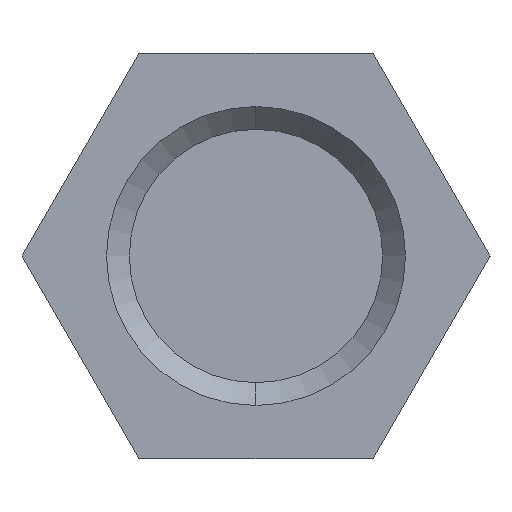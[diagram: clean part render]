
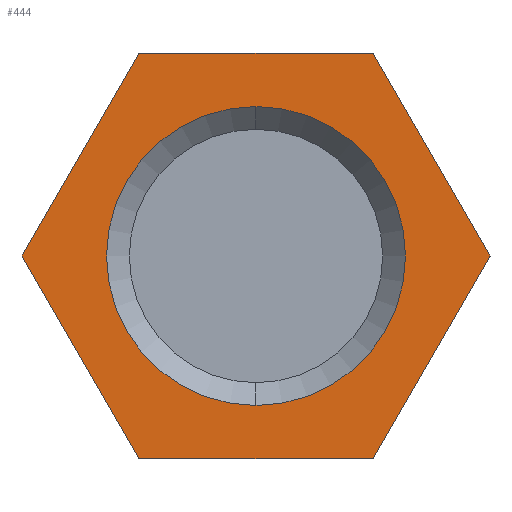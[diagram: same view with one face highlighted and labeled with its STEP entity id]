
A CAD part, left-side view. The second image highlights one B-rep face of the part: STEP entity #444.
In plain terms, the highlighted planar face has unit normal (-1, 0, 0).
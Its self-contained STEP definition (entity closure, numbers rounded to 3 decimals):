
#4=DIRECTION('',(0.,-0.5,-0.866));
#5=VECTOR('',#4,4.619);
#6=CARTESIAN_POINT('',(0.,4.619,0.));
#7=LINE('',#6,#5);
#12=DIRECTION('',(0.,0.5,-0.866));
#13=VECTOR('',#12,4.619);
#14=CARTESIAN_POINT('',(0.,2.309,4.));
#15=LINE('',#14,#13);
#19=DIRECTION('',(0.,1.,0.));
#20=VECTOR('',#19,4.619);
#21=CARTESIAN_POINT('',(0.,-2.309,4.));
#22=LINE('',#21,#20);
#26=DIRECTION('',(0.,0.5,0.866));
#27=VECTOR('',#26,4.619);
#28=CARTESIAN_POINT('',(0.,-4.619,0.));
#29=LINE('',#28,#27);
#33=DIRECTION('',(0.,-0.5,0.866));
#34=VECTOR('',#33,4.619);
#35=CARTESIAN_POINT('',(0.,-2.309,-4.));
#36=LINE('',#35,#34);
#40=DIRECTION('',(0.,-1.,0.));
#41=VECTOR('',#40,4.619);
#42=CARTESIAN_POINT('',(0.,2.309,-4.));
#43=LINE('',#42,#41);
#47=CARTESIAN_POINT('',(0.,0.,0.));
#48=DIRECTION('',(1.,0.,0.));
#49=DIRECTION('',(0.,0.,1.));
#50=AXIS2_PLACEMENT_3D('',#47,#48,#49);
#55=CARTESIAN_POINT('',(0.,0.,0.));
#56=DIRECTION('',(1.,0.,0.));
#57=DIRECTION('',(0.,0.,-1.));
#58=AXIS2_PLACEMENT_3D('',#55,#56,#57);
#359=CARTESIAN_POINT('',(0.,4.619,0.));
#360=CARTESIAN_POINT('',(0.,2.309,-4.));
#361=VERTEX_POINT('',#359);
#362=VERTEX_POINT('',#360);
#363=CARTESIAN_POINT('',(0.,-2.309,-4.));
#364=VERTEX_POINT('',#363);
#365=CARTESIAN_POINT('',(0.,-4.619,0.));
#366=VERTEX_POINT('',#365);
#367=CARTESIAN_POINT('',(0.,-2.309,4.));
#368=VERTEX_POINT('',#367);
#369=CARTESIAN_POINT('',(0.,2.309,4.));
#370=VERTEX_POINT('',#369);
#411=CARTESIAN_POINT('',(0.,0.,2.95));
#412=CARTESIAN_POINT('',(0.,0.,-2.95));
#413=VERTEX_POINT('',#411);
#414=VERTEX_POINT('',#412);
#419=CARTESIAN_POINT('',(0.,0.,0.));
#420=DIRECTION('',(-1.,0.,0.));
#421=DIRECTION('',(0.,0.,1.));
#422=AXIS2_PLACEMENT_3D('',#419,#420,#421);
#423=PLANE('',#422);
#425=ORIENTED_EDGE('',*,*,#424,.F.);
#427=ORIENTED_EDGE('',*,*,#426,.F.);
#429=ORIENTED_EDGE('',*,*,#428,.F.);
#431=ORIENTED_EDGE('',*,*,#430,.F.);
#433=ORIENTED_EDGE('',*,*,#432,.F.);
#435=ORIENTED_EDGE('',*,*,#434,.F.);
#436=EDGE_LOOP('',(#425,#427,#429,#431,#433,#435));
#437=FACE_OUTER_BOUND('',#436,.F.);
#439=ORIENTED_EDGE('',*,*,#438,.F.);
#441=ORIENTED_EDGE('',*,*,#440,.F.);
#442=EDGE_LOOP('',(#439,#441));
#443=FACE_BOUND('',#442,.F.);
#444=ADVANCED_FACE('',(#437,#443),#423,.T.);
#51=CIRCLE('',#50,2.95);
#59=CIRCLE('',#58,2.95);
#424=EDGE_CURVE('',#361,#362,#7,.T.);
#426=EDGE_CURVE('',#370,#361,#15,.T.);
#428=EDGE_CURVE('',#368,#370,#22,.T.);
#430=EDGE_CURVE('',#366,#368,#29,.T.);
#432=EDGE_CURVE('',#364,#366,#36,.T.);
#434=EDGE_CURVE('',#362,#364,#43,.T.);
#438=EDGE_CURVE('',#413,#414,#51,.T.);
#440=EDGE_CURVE('',#414,#413,#59,.T.);
